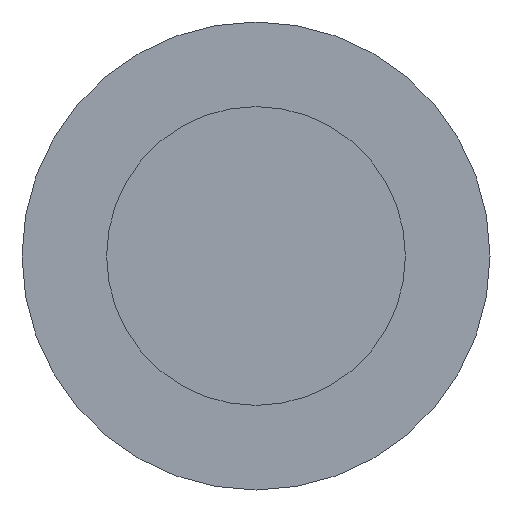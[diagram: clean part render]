
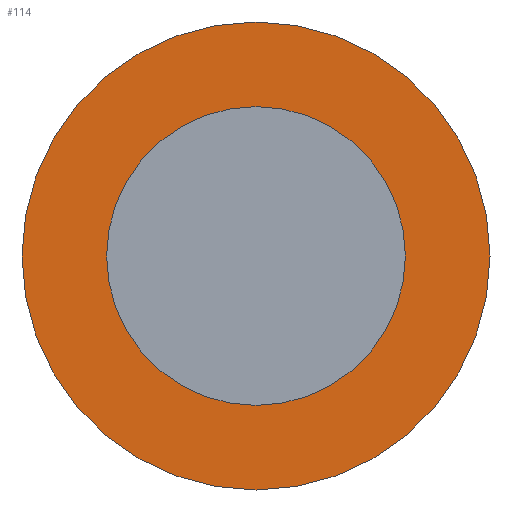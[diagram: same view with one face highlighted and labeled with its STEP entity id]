
A CAD part, front view. The second image highlights one B-rep face of the part: STEP entity #114.
In plain terms, the highlighted planar face has unit normal (0, -1, 0).
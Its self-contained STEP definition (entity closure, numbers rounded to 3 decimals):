
#1 = EDGE_CURVE ( 'NONE', #161, #161, #31, .T. ) ;
#5 = CARTESIAN_POINT ( 'NONE',  ( 0., 0., 0. ) ) ;
#11 = DIRECTION ( 'NONE',  ( 0., 0., -1. ) ) ;
#21 = DIRECTION ( 'NONE',  ( 0., -1., 0. ) ) ;
#22 = EDGE_LOOP ( 'NONE', ( #105 ) ) ;
#24 = AXIS2_PLACEMENT_3D ( 'NONE', #5, #57, #11 ) ;
#26 = CARTESIAN_POINT ( 'NONE',  ( 0., 0., 0. ) ) ;
#31 = CIRCLE ( 'NONE', #24, 20.75 ) ;
#33 = DIRECTION ( 'NONE',  ( 0., 1., 0. ) ) ;
#38 = EDGE_LOOP ( 'NONE', ( #139 ) ) ;
#49 = AXIS2_PLACEMENT_3D ( 'NONE', #26, #21, #119 ) ;
#57 = DIRECTION ( 'NONE',  ( 0., -1., 0. ) ) ;
#68 = AXIS2_PLACEMENT_3D ( 'NONE', #172, #33, #100 ) ;
#75 = FACE_OUTER_BOUND ( 'NONE', #22, .T. ) ;
#100 = DIRECTION ( 'NONE',  ( 0., 0., 1. ) ) ;
#105 = ORIENTED_EDGE ( 'NONE', *, *, #153, .T. ) ;
#114 = ADVANCED_FACE ( 'NONE', ( #206, #75 ), #205, .F. ) ;
#119 = DIRECTION ( 'NONE',  ( 0., 0., -1. ) ) ;
#125 = CIRCLE ( 'NONE', #49, 32.5 ) ;
#139 = ORIENTED_EDGE ( 'NONE', *, *, #1, .F. ) ;
#146 = CARTESIAN_POINT ( 'NONE',  ( 0., 0., -32.5 ) ) ;
#153 = EDGE_CURVE ( 'NONE', #194, #194, #125, .T. ) ;
#161 = VERTEX_POINT ( 'NONE', #162 ) ;
#162 = CARTESIAN_POINT ( 'NONE',  ( 0., 0., -20.75 ) ) ;
#172 = CARTESIAN_POINT ( 'NONE',  ( -20.75, 0., 0. ) ) ;
#194 = VERTEX_POINT ( 'NONE', #146 ) ;
#205 = PLANE ( 'NONE',  #68 ) ;
#206 = FACE_BOUND ( 'NONE', #38, .T. ) ;
